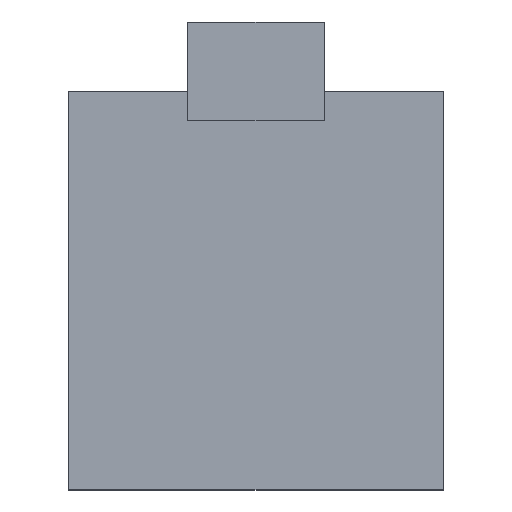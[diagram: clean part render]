
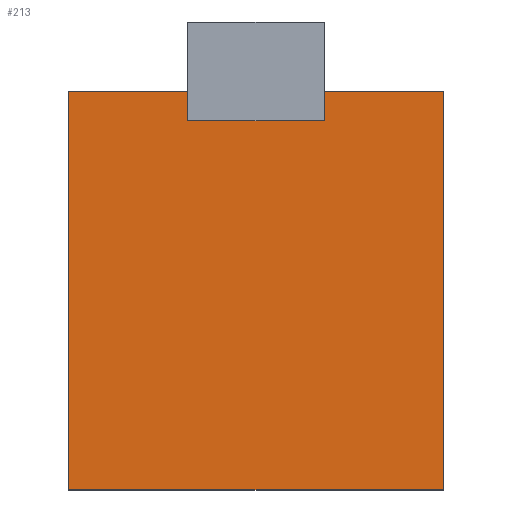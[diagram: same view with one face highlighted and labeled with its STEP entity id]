
A CAD part, top view. The second image highlights one B-rep face of the part: STEP entity #213.
In plain terms, the highlighted planar face has unit normal (0, 0, 1).
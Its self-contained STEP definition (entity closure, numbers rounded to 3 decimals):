
#24 = VERTEX_POINT('',#25);
#25 = CARTESIAN_POINT('',(-11.,-11.7,4.6));
#32 = PLANE('',#33);
#33 = AXIS2_PLACEMENT_3D('',#34,#35,#36);
#34 = CARTESIAN_POINT('',(-11.,-11.7,3.4));
#35 = DIRECTION('',(1.,0.,-0.));
#36 = DIRECTION('',(0.,0.,1.));
#44 = PLANE('',#45);
#45 = AXIS2_PLACEMENT_3D('',#46,#47,#48);
#46 = CARTESIAN_POINT('',(-11.,-11.7,3.4));
#47 = DIRECTION('',(-0.,1.,0.));
#48 = DIRECTION('',(0.,0.,1.));
#85 = VERTEX_POINT('',#86);
#86 = CARTESIAN_POINT('',(-11.,11.7,4.6));
#100 = PLANE('',#101);
#101 = AXIS2_PLACEMENT_3D('',#102,#103,#104);
#102 = CARTESIAN_POINT('',(-11.,11.7,3.4));
#103 = DIRECTION('',(-0.,1.,0.));
#104 = DIRECTION('',(0.,0.,1.));
#112 = EDGE_CURVE('',#24,#85,#113,.T.);
#113 = SURFACE_CURVE('',#114,(#118,#125),.PCURVE_S1.);
#114 = LINE('',#115,#116);
#115 = CARTESIAN_POINT('',(-11.,-11.7,4.6));
#116 = VECTOR('',#117,1.);
#117 = DIRECTION('',(-0.,1.,0.));
#118 = PCURVE('',#32,#119);
#119 = DEFINITIONAL_REPRESENTATION('',(#120),#124);
#120 = LINE('',#121,#122);
#121 = CARTESIAN_POINT('',(1.2,0.));
#122 = VECTOR('',#123,1.);
#123 = DIRECTION('',(0.,-1.));
#124 = ( GEOMETRIC_REPRESENTATION_CONTEXT(2) 
PARAMETRIC_REPRESENTATION_CONTEXT() REPRESENTATION_CONTEXT('2D SPACE',''
  ) );
#125 = PCURVE('',#126,#131);
#126 = PLANE('',#127);
#127 = AXIS2_PLACEMENT_3D('',#128,#129,#130);
#128 = CARTESIAN_POINT('',(-11.,-11.7,4.6));
#129 = DIRECTION('',(0.,0.,1.));
#130 = DIRECTION('',(1.,0.,-0.));
#131 = DEFINITIONAL_REPRESENTATION('',(#132),#136);
#132 = LINE('',#133,#134);
#133 = CARTESIAN_POINT('',(0.,0.));
#134 = VECTOR('',#135,1.);
#135 = DIRECTION('',(0.,1.));
#136 = ( GEOMETRIC_REPRESENTATION_CONTEXT(2) 
PARAMETRIC_REPRESENTATION_CONTEXT() REPRESENTATION_CONTEXT('2D SPACE',''
  ) );
#165 = EDGE_CURVE('',#24,#166,#168,.T.);
#166 = VERTEX_POINT('',#167);
#167 = CARTESIAN_POINT('',(11.,-11.7,4.6));
#168 = SURFACE_CURVE('',#169,(#173,#180),.PCURVE_S1.);
#169 = LINE('',#170,#171);
#170 = CARTESIAN_POINT('',(-11.,-11.7,4.6));
#171 = VECTOR('',#172,1.);
#172 = DIRECTION('',(1.,0.,-0.));
#173 = PCURVE('',#44,#174);
#174 = DEFINITIONAL_REPRESENTATION('',(#175),#179);
#175 = LINE('',#176,#177);
#176 = CARTESIAN_POINT('',(1.2,0.));
#177 = VECTOR('',#178,1.);
#178 = DIRECTION('',(0.,1.));
#179 = ( GEOMETRIC_REPRESENTATION_CONTEXT(2) 
PARAMETRIC_REPRESENTATION_CONTEXT() REPRESENTATION_CONTEXT('2D SPACE',''
  ) );
#180 = PCURVE('',#126,#181);
#181 = DEFINITIONAL_REPRESENTATION('',(#182),#186);
#182 = LINE('',#183,#184);
#183 = CARTESIAN_POINT('',(0.,0.));
#184 = VECTOR('',#185,1.);
#185 = DIRECTION('',(1.,0.));
#186 = ( GEOMETRIC_REPRESENTATION_CONTEXT(2) 
PARAMETRIC_REPRESENTATION_CONTEXT() REPRESENTATION_CONTEXT('2D SPACE',''
  ) );
#202 = PLANE('',#203);
#203 = AXIS2_PLACEMENT_3D('',#204,#205,#206);
#204 = CARTESIAN_POINT('',(11.,-11.7,3.4));
#205 = DIRECTION('',(1.,0.,-0.));
#206 = DIRECTION('',(0.,0.,1.));
#213 = ADVANCED_FACE('',(#214),#126,.T.);
#214 = FACE_BOUND('',#215,.T.);
#215 = EDGE_LOOP('',(#216,#239,#240,#241,#264,#287,#315,#343));
#216 = ORIENTED_EDGE('',*,*,#217,.F.);
#217 = EDGE_CURVE('',#85,#218,#220,.T.);
#218 = VERTEX_POINT('',#219);
#219 = CARTESIAN_POINT('',(-2.,11.7,4.6));
#220 = SURFACE_CURVE('',#221,(#225,#232),.PCURVE_S1.);
#221 = LINE('',#222,#223);
#222 = CARTESIAN_POINT('',(-11.,11.7,4.6));
#223 = VECTOR('',#224,1.);
#224 = DIRECTION('',(1.,0.,-0.));
#225 = PCURVE('',#126,#226);
#226 = DEFINITIONAL_REPRESENTATION('',(#227),#231);
#227 = LINE('',#228,#229);
#228 = CARTESIAN_POINT('',(0.,23.4));
#229 = VECTOR('',#230,1.);
#230 = DIRECTION('',(1.,0.));
#231 = ( GEOMETRIC_REPRESENTATION_CONTEXT(2) 
PARAMETRIC_REPRESENTATION_CONTEXT() REPRESENTATION_CONTEXT('2D SPACE',''
  ) );
#232 = PCURVE('',#100,#233);
#233 = DEFINITIONAL_REPRESENTATION('',(#234),#238);
#234 = LINE('',#235,#236);
#235 = CARTESIAN_POINT('',(1.2,0.));
#236 = VECTOR('',#237,1.);
#237 = DIRECTION('',(0.,1.));
#238 = ( GEOMETRIC_REPRESENTATION_CONTEXT(2) 
PARAMETRIC_REPRESENTATION_CONTEXT() REPRESENTATION_CONTEXT('2D SPACE',''
  ) );
#239 = ORIENTED_EDGE('',*,*,#112,.F.);
#240 = ORIENTED_EDGE('',*,*,#165,.T.);
#241 = ORIENTED_EDGE('',*,*,#242,.T.);
#242 = EDGE_CURVE('',#166,#243,#245,.T.);
#243 = VERTEX_POINT('',#244);
#244 = CARTESIAN_POINT('',(11.,11.7,4.6));
#245 = SURFACE_CURVE('',#246,(#250,#257),.PCURVE_S1.);
#246 = LINE('',#247,#248);
#247 = CARTESIAN_POINT('',(11.,-11.7,4.6));
#248 = VECTOR('',#249,1.);
#249 = DIRECTION('',(-0.,1.,0.));
#250 = PCURVE('',#126,#251);
#251 = DEFINITIONAL_REPRESENTATION('',(#252),#256);
#252 = LINE('',#253,#254);
#253 = CARTESIAN_POINT('',(22.,0.));
#254 = VECTOR('',#255,1.);
#255 = DIRECTION('',(0.,1.));
#256 = ( GEOMETRIC_REPRESENTATION_CONTEXT(2) 
PARAMETRIC_REPRESENTATION_CONTEXT() REPRESENTATION_CONTEXT('2D SPACE',''
  ) );
#257 = PCURVE('',#202,#258);
#258 = DEFINITIONAL_REPRESENTATION('',(#259),#263);
#259 = LINE('',#260,#261);
#260 = CARTESIAN_POINT('',(1.2,0.));
#261 = VECTOR('',#262,1.);
#262 = DIRECTION('',(0.,-1.));
#263 = ( GEOMETRIC_REPRESENTATION_CONTEXT(2) 
PARAMETRIC_REPRESENTATION_CONTEXT() REPRESENTATION_CONTEXT('2D SPACE',''
  ) );
#264 = ORIENTED_EDGE('',*,*,#265,.F.);
#265 = EDGE_CURVE('',#266,#243,#268,.T.);
#266 = VERTEX_POINT('',#267);
#267 = CARTESIAN_POINT('',(2.,11.7,4.6));
#268 = SURFACE_CURVE('',#269,(#273,#280),.PCURVE_S1.);
#269 = LINE('',#270,#271);
#270 = CARTESIAN_POINT('',(-11.,11.7,4.6));
#271 = VECTOR('',#272,1.);
#272 = DIRECTION('',(1.,0.,-0.));
#273 = PCURVE('',#126,#274);
#274 = DEFINITIONAL_REPRESENTATION('',(#275),#279);
#275 = LINE('',#276,#277);
#276 = CARTESIAN_POINT('',(0.,23.4));
#277 = VECTOR('',#278,1.);
#278 = DIRECTION('',(1.,0.));
#279 = ( GEOMETRIC_REPRESENTATION_CONTEXT(2) 
PARAMETRIC_REPRESENTATION_CONTEXT() REPRESENTATION_CONTEXT('2D SPACE',''
  ) );
#280 = PCURVE('',#100,#281);
#281 = DEFINITIONAL_REPRESENTATION('',(#282),#286);
#282 = LINE('',#283,#284);
#283 = CARTESIAN_POINT('',(1.2,0.));
#284 = VECTOR('',#285,1.);
#285 = DIRECTION('',(0.,1.));
#286 = ( GEOMETRIC_REPRESENTATION_CONTEXT(2) 
PARAMETRIC_REPRESENTATION_CONTEXT() REPRESENTATION_CONTEXT('2D SPACE',''
  ) );
#287 = ORIENTED_EDGE('',*,*,#288,.F.);
#288 = EDGE_CURVE('',#289,#266,#291,.T.);
#289 = VERTEX_POINT('',#290);
#290 = CARTESIAN_POINT('',(2.,10.,4.6));
#291 = SURFACE_CURVE('',#292,(#296,#303),.PCURVE_S1.);
#292 = LINE('',#293,#294);
#293 = CARTESIAN_POINT('',(2.,10.,4.6));
#294 = VECTOR('',#295,1.);
#295 = DIRECTION('',(-0.,1.,0.));
#296 = PCURVE('',#126,#297);
#297 = DEFINITIONAL_REPRESENTATION('',(#298),#302);
#298 = LINE('',#299,#300);
#299 = CARTESIAN_POINT('',(13.,21.7));
#300 = VECTOR('',#301,1.);
#301 = DIRECTION('',(0.,1.));
#302 = ( GEOMETRIC_REPRESENTATION_CONTEXT(2) 
PARAMETRIC_REPRESENTATION_CONTEXT() REPRESENTATION_CONTEXT('2D SPACE',''
  ) );
#303 = PCURVE('',#304,#309);
#304 = PLANE('',#305);
#305 = AXIS2_PLACEMENT_3D('',#306,#307,#308);
#306 = CARTESIAN_POINT('',(2.,10.,4.6));
#307 = DIRECTION('',(1.,0.,-0.));
#308 = DIRECTION('',(0.,0.,1.));
#309 = DEFINITIONAL_REPRESENTATION('',(#310),#314);
#310 = LINE('',#311,#312);
#311 = CARTESIAN_POINT('',(0.,0.));
#312 = VECTOR('',#313,1.);
#313 = DIRECTION('',(0.,-1.));
#314 = ( GEOMETRIC_REPRESENTATION_CONTEXT(2) 
PARAMETRIC_REPRESENTATION_CONTEXT() REPRESENTATION_CONTEXT('2D SPACE',''
  ) );
#315 = ORIENTED_EDGE('',*,*,#316,.F.);
#316 = EDGE_CURVE('',#317,#289,#319,.T.);
#317 = VERTEX_POINT('',#318);
#318 = CARTESIAN_POINT('',(-2.,10.,4.6));
#319 = SURFACE_CURVE('',#320,(#324,#331),.PCURVE_S1.);
#320 = LINE('',#321,#322);
#321 = CARTESIAN_POINT('',(-2.,10.,4.6));
#322 = VECTOR('',#323,1.);
#323 = DIRECTION('',(1.,0.,-0.));
#324 = PCURVE('',#126,#325);
#325 = DEFINITIONAL_REPRESENTATION('',(#326),#330);
#326 = LINE('',#327,#328);
#327 = CARTESIAN_POINT('',(9.,21.7));
#328 = VECTOR('',#329,1.);
#329 = DIRECTION('',(1.,0.));
#330 = ( GEOMETRIC_REPRESENTATION_CONTEXT(2) 
PARAMETRIC_REPRESENTATION_CONTEXT() REPRESENTATION_CONTEXT('2D SPACE',''
  ) );
#331 = PCURVE('',#332,#337);
#332 = PLANE('',#333);
#333 = AXIS2_PLACEMENT_3D('',#334,#335,#336);
#334 = CARTESIAN_POINT('',(-2.,10.,4.6));
#335 = DIRECTION('',(-0.,1.,0.));
#336 = DIRECTION('',(0.,0.,1.));
#337 = DEFINITIONAL_REPRESENTATION('',(#338),#342);
#338 = LINE('',#339,#340);
#339 = CARTESIAN_POINT('',(0.,0.));
#340 = VECTOR('',#341,1.);
#341 = DIRECTION('',(0.,1.));
#342 = ( GEOMETRIC_REPRESENTATION_CONTEXT(2) 
PARAMETRIC_REPRESENTATION_CONTEXT() REPRESENTATION_CONTEXT('2D SPACE',''
  ) );
#343 = ORIENTED_EDGE('',*,*,#344,.T.);
#344 = EDGE_CURVE('',#317,#218,#345,.T.);
#345 = SURFACE_CURVE('',#346,(#350,#357),.PCURVE_S1.);
#346 = LINE('',#347,#348);
#347 = CARTESIAN_POINT('',(-2.,10.,4.6));
#348 = VECTOR('',#349,1.);
#349 = DIRECTION('',(-0.,1.,0.));
#350 = PCURVE('',#126,#351);
#351 = DEFINITIONAL_REPRESENTATION('',(#352),#356);
#352 = LINE('',#353,#354);
#353 = CARTESIAN_POINT('',(9.,21.7));
#354 = VECTOR('',#355,1.);
#355 = DIRECTION('',(0.,1.));
#356 = ( GEOMETRIC_REPRESENTATION_CONTEXT(2) 
PARAMETRIC_REPRESENTATION_CONTEXT() REPRESENTATION_CONTEXT('2D SPACE',''
  ) );
#357 = PCURVE('',#358,#363);
#358 = PLANE('',#359);
#359 = AXIS2_PLACEMENT_3D('',#360,#361,#362);
#360 = CARTESIAN_POINT('',(-2.,10.,4.6));
#361 = DIRECTION('',(1.,0.,-0.));
#362 = DIRECTION('',(0.,0.,1.));
#363 = DEFINITIONAL_REPRESENTATION('',(#364),#368);
#364 = LINE('',#365,#366);
#365 = CARTESIAN_POINT('',(0.,0.));
#366 = VECTOR('',#367,1.);
#367 = DIRECTION('',(0.,-1.));
#368 = ( GEOMETRIC_REPRESENTATION_CONTEXT(2) 
PARAMETRIC_REPRESENTATION_CONTEXT() REPRESENTATION_CONTEXT('2D SPACE',''
  ) );
